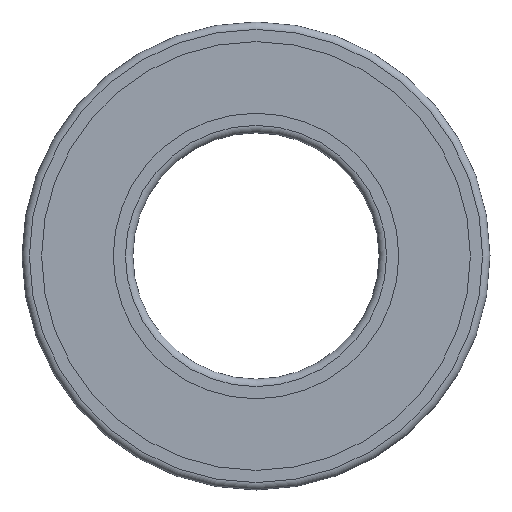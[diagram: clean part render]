
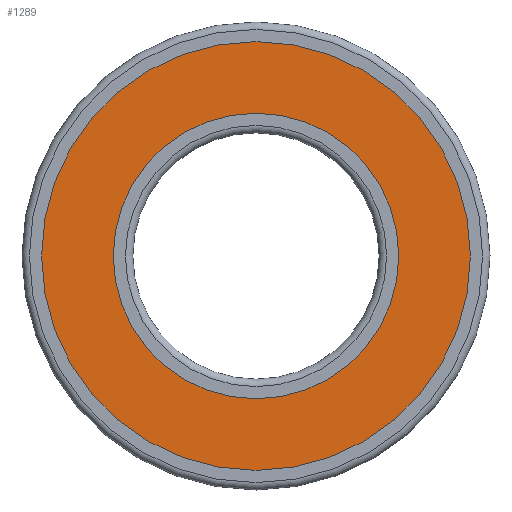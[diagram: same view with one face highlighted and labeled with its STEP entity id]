
A CAD part, left-side view. The second image highlights one B-rep face of the part: STEP entity #1289.
In plain terms, the highlighted planar face has unit normal (-1, 0, 0).
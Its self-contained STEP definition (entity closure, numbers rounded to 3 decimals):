
#222=FACE_BOUND($,#404,.T.);
#223=FACE_BOUND($,#405,.T.);
#404=EDGE_LOOP($,(#1174));
#405=EDGE_LOOP($,(#1175));
#529=CIRCLE($,#1503,5.798);
#532=CIRCLE($,#1508,8.702);
#655=VERTEX_POINT($,#3269);
#658=VERTEX_POINT($,#3277);
#828=EDGE_CURVE($,#655,#655,#529,.T.);
#831=EDGE_CURVE($,#658,#658,#532,.T.);
#1174=ORIENTED_EDGE($,*,*,#828,.T.);
#1175=ORIENTED_EDGE($,*,*,#831,.F.);
#1211=PLANE($,#1507);
#1289=ADVANCED_FACE($,(#222,#223),#1211,.T.);
#1503=AXIS2_PLACEMENT_3D($,#3270,#1933,#1934);
#1507=AXIS2_PLACEMENT_3D($,#3276,#1941,#1942);
#1508=AXIS2_PLACEMENT_3D($,#3278,#1943,#1944);
#1933=DIRECTION('center_axis',(1.,0.,0.));
#1934=DIRECTION('ref_axis',(0.,0.,-1.));
#1941=DIRECTION('center_axis',(-1.,0.,0.));
#1942=DIRECTION('ref_axis',(0.,0.,1.));
#1943=DIRECTION('center_axis',(1.,0.,0.));
#1944=DIRECTION('ref_axis',(0.,0.,-1.));
#3269=CARTESIAN_POINT('',(-2.5,5.798,0.));
#3270=CARTESIAN_POINT('Origin',(-2.5,0.,0.));
#3276=CARTESIAN_POINT('Origin',(-2.5,8.702,0.));
#3277=CARTESIAN_POINT('',(-2.5,8.702,0.));
#3278=CARTESIAN_POINT('Origin',(-2.5,0.,0.));
